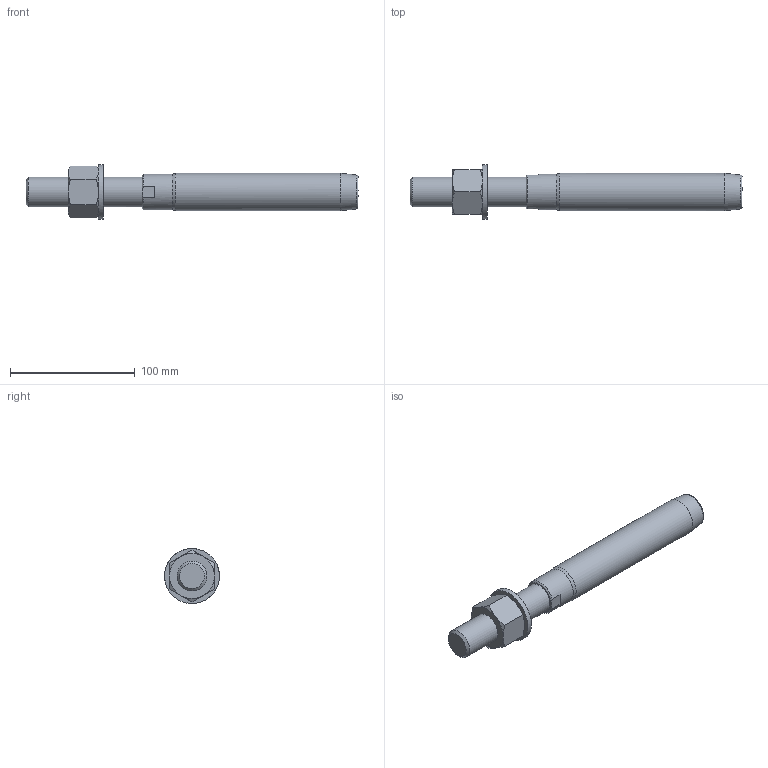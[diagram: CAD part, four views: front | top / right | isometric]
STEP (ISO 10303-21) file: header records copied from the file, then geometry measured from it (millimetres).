
FILE_DESCRIPTION(/* description */ (''),/* implementation_level */ '2;1');
FILE_NAME(/* name */ 'FLT 16_42CrMo4',/* time_stamp */ '2023-05-23T15:57:51+02:00',/* author */ (''),/* organization */ (''),/* preprocessor_version */ 'ST-DEVELOPER v16.5',/* originating_system */ 'Rhino 7.22',/* authorisation */ '');
FILE_SCHEMA (('CONFIG_CONTROL_DESIGN'));
Length unit declared in the file: millimetre
Products named in the file (1): Document
Bounding box: 266 x 43.96 x 43.99 mm (x, y, z)
Volume: 184127.5 mm3; surface area: 33059.3 mm2
Topology: 3 solids, 3 shells, 42 faces, 102 edges, 67 vertices
Faces by surface type: bspline 19, plane 17, cylinder 6
Full cylindrical faces by diameter (mm): 20.752 x1, 24 x1, 25 x1, 28.6 x1, 30 x1, 44 x1
Entity records: 1559 total; most frequent: CARTESIAN_POINT 861, ORIENTED_EDGE 204, EDGE_CURVE 102, VERTEX_POINT 67, EDGE_LOOP 47, ADVANCED_FACE 42, FACE_OUTER_BOUND 42, DIRECTION 27
